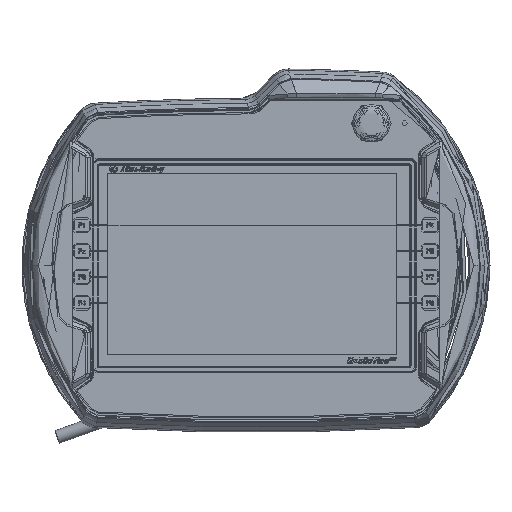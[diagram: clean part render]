
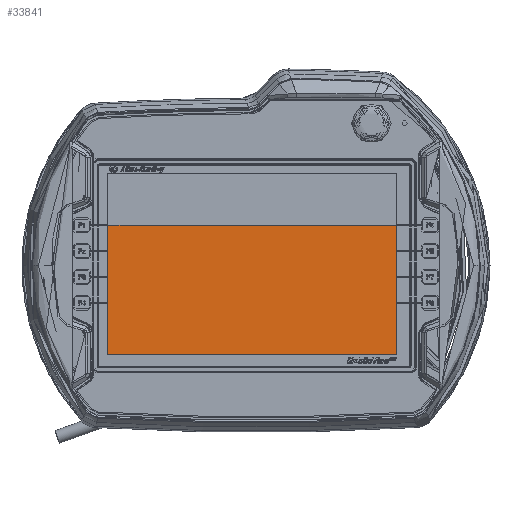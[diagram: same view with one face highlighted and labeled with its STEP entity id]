
A CAD part, top view. The second image highlights one B-rep face of the part: STEP entity #33841.
In plain terms, the highlighted planar face has unit normal (0, 0, 1).
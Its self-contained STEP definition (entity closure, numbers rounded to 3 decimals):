
#1304=DIRECTION('',(1.,0.,0.));
#1305=VECTOR('',#1304,218.);
#1306=CARTESIAN_POINT('',(-112.,-67.4,17.639));
#1307=LINE('',#1306,#1305);
#1344=DIRECTION('',(0.,1.,0.));
#1345=VECTOR('',#1344,136.6);
#1346=CARTESIAN_POINT('',(106.,-67.4,17.639));
#1347=LINE('',#1346,#1345);
#18731=DIRECTION('',(0.,-1.,0.));
#18732=VECTOR('',#18731,136.6);
#18733=CARTESIAN_POINT('',(-112.,69.2,17.639));
#18734=LINE('',#18733,#18732);
#28621=DIRECTION('',(-1.,0.,0.));
#28622=VECTOR('',#28621,218.);
#28623=CARTESIAN_POINT('',(106.,69.2,17.639));
#28624=LINE('',#28623,#28622);
#32037=CARTESIAN_POINT('',(-112.,-67.4,17.639));
#32038=CARTESIAN_POINT('',(106.,-67.4,17.639));
#32039=VERTEX_POINT('',#32037);
#32040=VERTEX_POINT('',#32038);
#32041=CARTESIAN_POINT('',(-112.,69.2,17.639));
#32042=VERTEX_POINT('',#32041);
#32043=CARTESIAN_POINT('',(106.,69.2,17.639));
#32044=VERTEX_POINT('',#32043);
#33826=CARTESIAN_POINT('',(-3.,0.9,17.639));
#33827=DIRECTION('',(0.,0.,1.));
#33828=DIRECTION('',(1.,0.,0.));
#33829=AXIS2_PLACEMENT_3D('',#33826,#33827,#33828);
#33830=PLANE('',#33829);
#33832=ORIENTED_EDGE('',*,*,#33831,.F.);
#33834=ORIENTED_EDGE('',*,*,#33833,.F.);
#33836=ORIENTED_EDGE('',*,*,#33835,.F.);
#33838=ORIENTED_EDGE('',*,*,#33837,.F.);
#33839=EDGE_LOOP('',(#33832,#33834,#33836,#33838));
#33840=FACE_OUTER_BOUND('',#33839,.F.);
#33841=ADVANCED_FACE('',(#33840),#33830,.T.);
#33831=EDGE_CURVE('',#32039,#32040,#1307,.T.);
#33833=EDGE_CURVE('',#32042,#32039,#18734,.T.);
#33835=EDGE_CURVE('',#32044,#32042,#28624,.T.);
#33837=EDGE_CURVE('',#32040,#32044,#1347,.T.);
